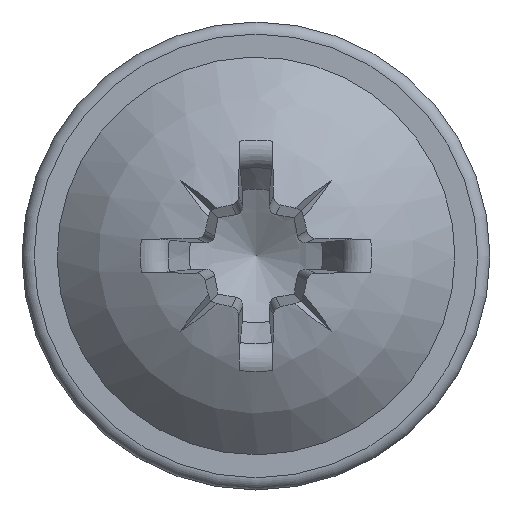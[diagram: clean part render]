
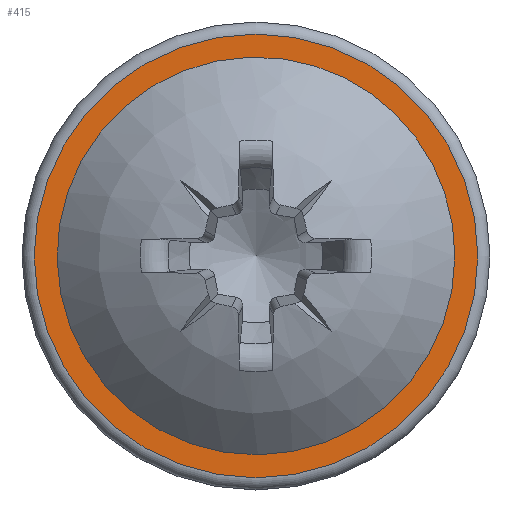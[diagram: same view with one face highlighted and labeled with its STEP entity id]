
A CAD part, top view. The second image highlights one B-rep face of the part: STEP entity #415.
In plain terms, the highlighted planar face has unit normal (0, 0, 1).
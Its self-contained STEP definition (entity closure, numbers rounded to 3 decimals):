
#121=PLANE('',#2252);
#389=FACE_BOUND('',#697,.T.);
#390=FACE_BOUND('',#698,.T.);
#415=ADVANCED_FACE('',(#389,#390),#121,.F.);
#697=EDGE_LOOP('',(#978));
#698=EDGE_LOOP('',(#979));
#834=CIRCLE('',#2210,5.738);
#869=CIRCLE('',#2251,6.4);
#978=ORIENTED_EDGE('',*,*,#1813,.T.);
#979=ORIENTED_EDGE('',*,*,#1762,.F.);
#1564=VERTEX_POINT('',#4484);
#1613=VERTEX_POINT('',#4788);
#1762=EDGE_CURVE('',#1564,#1564,#834,.T.);
#1813=EDGE_CURVE('',#1613,#1613,#869,.T.);
#2210=AXIS2_PLACEMENT_3D('',#4483,#2321,#2322);
#2251=AXIS2_PLACEMENT_3D('',#4787,#2404,#2405);
#2252=AXIS2_PLACEMENT_3D('',#4789,#2406,#2407);
#2321=DIRECTION('',(0.,0.,1.));
#2322=DIRECTION('',(1.,0.,0.));
#2404=DIRECTION('',(0.,0.,1.));
#2405=DIRECTION('',(-1.,0.,0.));
#2406=DIRECTION('',(0.,0.,-1.));
#2407=DIRECTION('',(-1.,0.,0.));
#4483=CARTESIAN_POINT('',(0.,0.,1.4));
#4484=CARTESIAN_POINT('',(5.738,0.,1.4));
#4787=CARTESIAN_POINT('',(0.,0.,1.4));
#4788=CARTESIAN_POINT('',(-6.4,0.,1.4));
#4789=CARTESIAN_POINT('',(0.,6.75,1.4));
